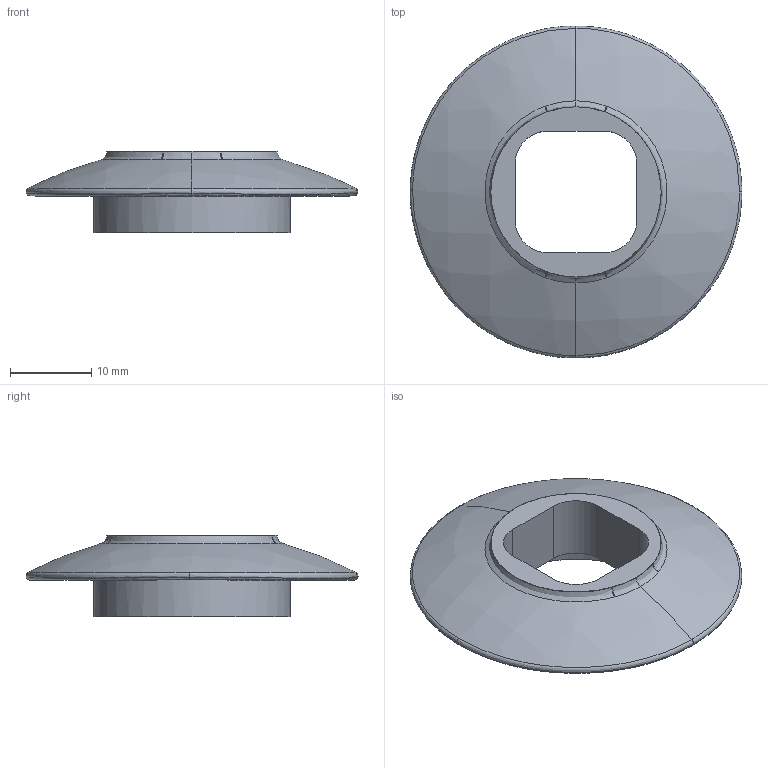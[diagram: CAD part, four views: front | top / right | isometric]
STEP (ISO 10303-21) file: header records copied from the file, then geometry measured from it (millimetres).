
FILE_DESCRIPTION(/* description */ (''),/* implementation_level */ '2;1');
FILE_NAME(/* name */ 'LAST_Grip 08.stp',/* time_stamp */ '2025-11-19T23:10:45+09:00',/* author */ (''),/* organization */ (''),/* preprocessor_version */ 'ST-DEVELOPER v11',/* originating_system */ 'SIEMENS PLM Software NX 7.5',/* authorisation */ '');
FILE_SCHEMA (('CONFIG_CONTROL_DESIGN'));
Length unit declared in the file: millimetre
Products named in the file (1): gyun8741ysfj
Bounding box: 40.92 x 40.96 x 10 mm (x, y, z)
Volume: 3010.8 mm3; surface area: 3574.3 mm2
Topology: 1 solids, 1 shells, 45 faces, 106 edges, 64 vertices
Faces by surface type: bspline 24, cylinder 10, plane 7, extrusion 4
Full cylindrical faces by diameter (mm): 21.3 x1, 24.273 x1
Entity records: 4905 total; most frequent: CARTESIAN_POINT 3972, ORIENTED_EDGE 206, DIRECTION 120, EDGE_CURVE 103, VERTEX_POINT 63, B_SPLINE_CURVE_WITH_KNOTS 56, EDGE_LOOP 50, AXIS2_PLACEMENT_3D 46
